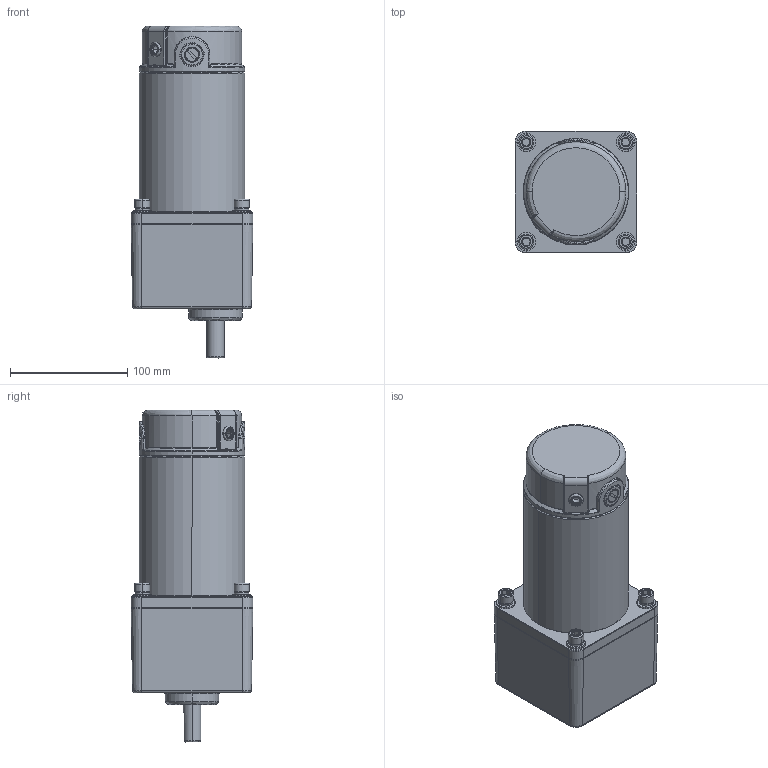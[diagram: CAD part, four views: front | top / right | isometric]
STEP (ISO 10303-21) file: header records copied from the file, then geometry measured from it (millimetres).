
FILE_DESCRIPTION (( 'STEP AP203' ), '1' );
FILE_NAME ('100饜6GU喘謫眊-120儂褲.STEP', '2021-07-12T07:29:47', ( '' ), ( '' ), 'SwSTEP 2.0', 'SolidWorks 2021', '' );
FILE_SCHEMA (( 'CONFIG_CONTROL_DESIGN' ));
Length unit declared in the file: millimetre
Products named in the file (11): TAN; 100饜6GU喘謫眊-120儂褲; H; Z6D300W; PRT0001_1; LUO; JK; LUO-M8; TAN-M8; 100; PING-M8
Assembly tree (21 placements, depth 3):
  100饜6GU喘謫眊-120儂褲
    Z6D300W
      LUO-M8  x4
      H
      TAN-M8  x4
      PING-M8  x4
      LUO  x2
      TAN  x2
      JK
      PRT0001_1
    100
Bounding box: 104 x 104 x 283.5 mm (x, y, z)
Volume: 1042875.8 mm3; surface area: 203088.6 mm2
Topology: 23 solids, 23 shells, 688 faces, 1622 edges, 998 vertices
Faces by surface type: cylinder 218, cone 197, plane 169, bspline 104
Entity records: 22761 total; most frequent: CARTESIAN_POINT 11195, ORIENTED_EDGE 2176, DIRECTION 2002, EDGE_CURVE 1088, AXIS2_PLACEMENT_3D 806, VERTEX_POINT 675, EDGE_LOOP 525, FACE_OUTER_BOUND 464
